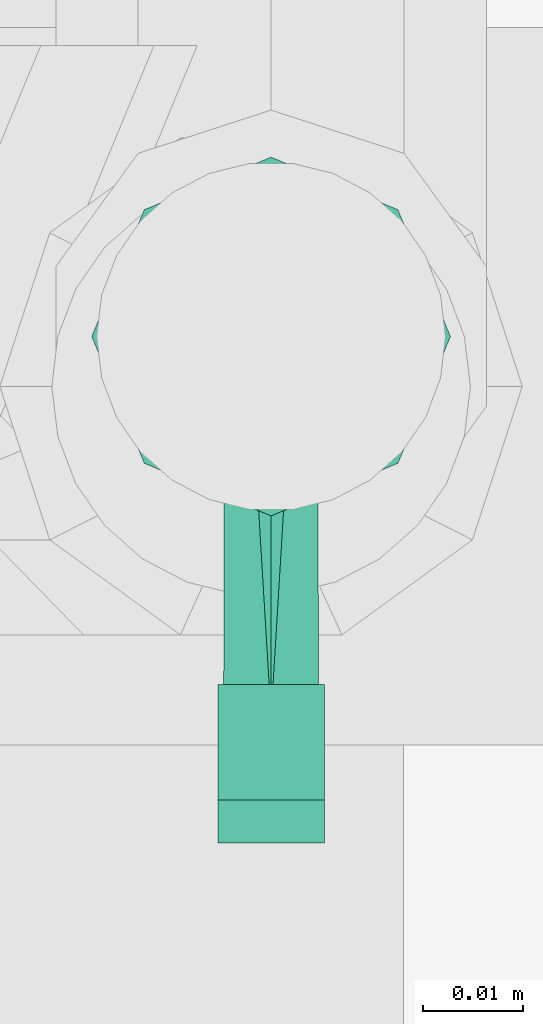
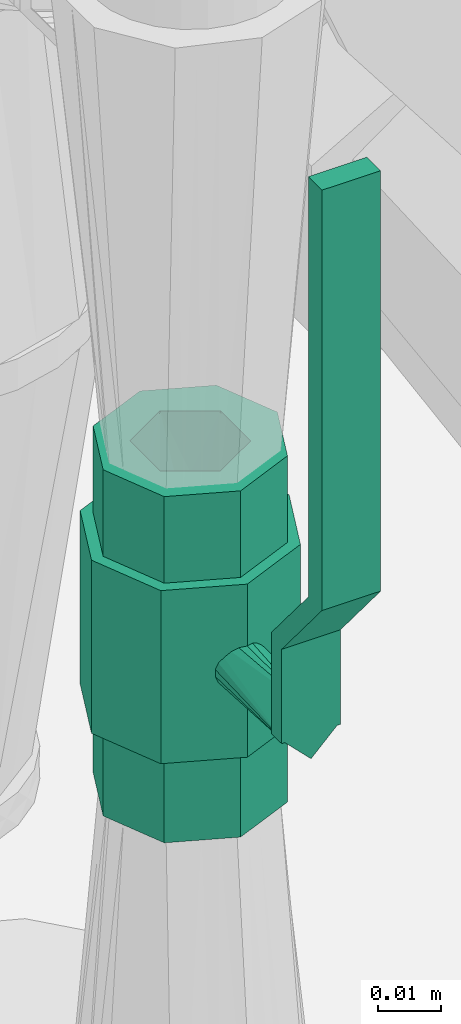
# One storey, part 33 of 43: 1 flow controller.
"""IFC2X3 building model written with IfcOpenShell, lengths in millimetres."""

from ifc_helpers import new_model, entity, si_unit, converted_unit, derived_unit, direction, frame, origin, place, context, subcontext, project, spatial, faceted_brep, source, transform, mapped, material, material_list, type_object, type_shapes, element, save


model = new_model("IFC2X3")

# Units and contexts
model_context = context("Model", 3, precision=0.01, world=origin(), true_north=direction((6.123031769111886e-17, 1.0)))
body_context = subcontext(model_context, "Body", "Model", "MODEL_VIEW")
ifc_project = project(units=[si_unit("LENGTHUNIT", "METRE", prefix="MILLI"), si_unit("AREAUNIT", "SQUARE_METRE"), si_unit("VOLUMEUNIT", "CUBIC_METRE"), converted_unit("PLANEANGLEUNIT", "DEGREE", entity("IfcRatioMeasure", 0.017453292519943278), si_unit("PLANEANGLEUNIT", "RADIAN"), dimensions=[0, 0, 0, 0, 0, 0, 0]), si_unit("MASSUNIT", "GRAM", prefix="KILO"), derived_unit("MASSDENSITYUNIT", [(si_unit("MASSUNIT", "GRAM", prefix="KILO"), 1), (si_unit("LENGTHUNIT", "METRE"), -3)]), derived_unit("MOMENTOFINERTIAUNIT", [(si_unit("LENGTHUNIT", "METRE"), 4)]), si_unit("TIMEUNIT", "SECOND"), si_unit("FREQUENCYUNIT", "HERTZ"), si_unit("THERMODYNAMICTEMPERATUREUNIT", "DEGREE_CELSIUS"), derived_unit("THERMALTRANSMITTANCEUNIT", [(si_unit("MASSUNIT", "GRAM", prefix="KILO"), 1), (si_unit("THERMODYNAMICTEMPERATUREUNIT", "KELVIN"), -1), (si_unit("TIMEUNIT", "SECOND"), -3)]), derived_unit("VOLUMETRICFLOWRATEUNIT", [(si_unit("LENGTHUNIT", "METRE"), 3), (si_unit("TIMEUNIT", "SECOND"), -1)]), derived_unit("MASSFLOWRATEUNIT", [(si_unit("MASSUNIT", "GRAM", prefix="KILO"), 1), (si_unit("TIMEUNIT", "SECOND"), -1)]), derived_unit("ROTATIONALFREQUENCYUNIT", [(si_unit("TIMEUNIT", "SECOND"), -1)]), si_unit("ELECTRICCURRENTUNIT", "AMPERE"), si_unit("ELECTRICVOLTAGEUNIT", "VOLT"), si_unit("POWERUNIT", "WATT"), si_unit("FORCEUNIT", "NEWTON", prefix="KILO"), si_unit("ILLUMINANCEUNIT", "LUX"), si_unit("LUMINOUSFLUXUNIT", "LUMEN"), si_unit("LUMINOUSINTENSITYUNIT", "CANDELA"), derived_unit("USERDEFINED", [(si_unit("MASSUNIT", "GRAM", prefix="KILO"), -1), (si_unit("LENGTHUNIT", "METRE"), -2), (si_unit("TIMEUNIT", "SECOND"), 3), (si_unit("LUMINOUSFLUXUNIT", "LUMEN"), 1)]), derived_unit("SOUNDPOWERUNIT", [(si_unit("MASSUNIT", "GRAM", prefix="KILO"), 1), (si_unit("LENGTHUNIT", "METRE"), 2), (si_unit("TIMEUNIT", "SECOND"), -3)]), derived_unit("SOUNDPRESSUREUNIT", [(si_unit("MASSUNIT", "GRAM", prefix="KILO"), 1), (si_unit("LENGTHUNIT", "METRE"), -1), (si_unit("TIMEUNIT", "SECOND"), -2)]), derived_unit("LINEARVELOCITYUNIT", [(si_unit("LENGTHUNIT", "METRE"), 1), (si_unit("TIMEUNIT", "SECOND"), -1)]), si_unit("PRESSUREUNIT", "PASCAL"), derived_unit("USERDEFINED", [(si_unit("LENGTHUNIT", "METRE"), -2), (si_unit("MASSUNIT", "GRAM", prefix="KILO"), 1), (si_unit("TIMEUNIT", "SECOND"), -2)]), derived_unit("LINEARFORCEUNIT", [(si_unit("MASSUNIT", "GRAM", prefix="KILO"), 1), (si_unit("LENGTHUNIT", "METRE"), 1), (si_unit("TIMEUNIT", "SECOND"), -2), (si_unit("LENGTHUNIT", "METRE"), -1)]), derived_unit("PLANARFORCEUNIT", [(si_unit("MASSUNIT", "GRAM", prefix="KILO"), 1), (si_unit("LENGTHUNIT", "METRE"), 1), (si_unit("TIMEUNIT", "SECOND"), -2), (si_unit("LENGTHUNIT", "METRE"), -2)])], contexts=[model_context])

# Site, building, storey
site_placement = place(None, origin())
site = spatial("IfcSite", under=ifc_project, at=site_placement, Name="Default", CompositionType="ELEMENT")
building_placement = place(site_placement, origin())
building = spatial("IfcBuilding", under=site, at=building_placement, CompositionType="ELEMENT")
storey_placement = place(building_placement, frame((0.0, 0.0, 270.0)))
storey = spatial("IfcBuildingStorey", under=building, at=storey_placement, Name="Niveau 0", CompositionType="ELEMENT", Elevation=270.0)

# Flow controller
ifc_material_1 = material(Name="Metal-WATTS-Carbon Steel-ASTM A216 gr.WCB")
ifc_material_2 = material(Name="Metal-WATTS-Carbon Steel-AISI 304 with Vinyl Insulator")
ifc_material_list_1 = material_list([ifc_material_1, ifc_material_1, ifc_material_2])
ifc_material_list_2 = material_list([ifc_material_1, ifc_material_1, ifc_material_2])
valve_type = type_object("IfcValveType", Name="Ball_Valves-Full_Port-WATTS-C-FBV-1_Series:C-FBV-1_3/4\"", PredefinedType="NOTDEFINED", material=ifc_material_list_2)
shared_shape = source(origin(), body_context, "Body", "Brep", [
    faceted_brep([(0.0, -4.762500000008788, 38.09999999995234), (0.0, 0.0, 38.09999999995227), (-4.762499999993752, 0.0, 38.09999999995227), (4.762500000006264, 0.0, 38.09999999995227), (0.0, 4.762499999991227, 38.0999999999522), (4.470049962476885, -1.643185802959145, 10.990341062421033), (4.762500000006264, 0.0, 11.112500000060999), (3.643394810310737, -3.0670964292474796, 10.680850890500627), (2.391550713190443, -4.118481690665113, 10.321131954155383), (0.835531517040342, -4.688634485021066, 10.074937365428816), (-3.6446556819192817, -3.065598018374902, 10.68128105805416), (-4.4701844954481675, -1.6428197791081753, 10.990395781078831), (-4.762499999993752, 0.0, 11.112500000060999), (-0.8368450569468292, -4.688400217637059, 10.075046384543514), (-2.3919569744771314, -4.118245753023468, 10.32122609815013), (-4.4701844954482, 1.6428197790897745, 10.99039578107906), (-3.6446556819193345, 3.0655980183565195, 10.681281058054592), (-2.3919569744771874, 4.118245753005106, 10.32122609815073), (-0.8368450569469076, 4.688400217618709, 10.075046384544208), (3.6433948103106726, 3.0670964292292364, 10.680850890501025), (4.470049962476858, 1.6431858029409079, 10.990341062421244), (0.8355315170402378, 4.6886344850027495, 10.0749373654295), (2.3915507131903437, 4.118481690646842, 10.32113195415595)], [[[0, 1, 2]], [[1, 0, 3]], [[4, 1, 3]], [[1, 4, 2]], [[3, 5, 6]], [[5, 3, 7]], [[7, 0, 8]], [[9, 8, 0]], [[0, 7, 3]], [[10, 0, 2]], [[11, 2, 12]], [[13, 0, 14]], [[14, 0, 10]], [[2, 11, 10]], [[0, 13, 9]], [[2, 15, 12]], [[15, 2, 16]], [[16, 4, 17]], [[18, 17, 4]], [[4, 16, 2]], [[19, 4, 3]], [[20, 3, 6]], [[21, 4, 22]], [[22, 4, 19]], [[3, 20, 19]], [[4, 21, 18]], [[15, 20, 6]], [[12, 15, 6]], [[16, 20, 15]], [[16, 19, 20]], [[17, 22, 19]], [[17, 18, 22]], [[21, 22, 18]], [[16, 17, 19]], [[14, 7, 8]], [[9, 13, 8]], [[14, 8, 13]], [[14, 10, 7]], [[11, 6, 5]], [[10, 11, 5]], [[12, 6, 11]], [[7, 10, 5]]]),
    faceted_brep([(33.33749999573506, 0.0, -9.524999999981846), (20.637500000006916, 2.465251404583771, -9.200443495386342), (20.637500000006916, 0.0, -9.524999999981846), (-20.637499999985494, 2.4652514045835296, -9.200443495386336), (-33.33750000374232, 0.0, -9.524999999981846), (-20.63749999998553, 0.0, -9.524999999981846), (33.337499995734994, 8.2488919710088, -4.762499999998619), (20.637500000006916, 6.735192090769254, -6.735192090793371), (20.637500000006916, 4.762499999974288, -8.248891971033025), (20.637500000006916, 8.248891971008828, -4.762499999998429), (-33.33750000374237, 8.248891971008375, -4.762499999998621), (-20.63749999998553, 6.735192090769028, -6.735192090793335), (-20.637499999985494, 8.248891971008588, -4.762499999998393), (20.637500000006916, 9.52499999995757, 0.0), (20.637500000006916, 9.200443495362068, -2.4652514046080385), (-20.637499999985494, 9.200443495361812, -2.465251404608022), (33.337499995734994, 8.248891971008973, 4.762499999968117), (20.637500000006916, 9.200443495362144, 2.4652514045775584), (20.637500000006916, 6.73519209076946, 6.7351920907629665), (20.637500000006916, 8.248891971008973, 4.762499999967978), (-20.63749999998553, 6.735192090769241, 6.735192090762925), (-33.33750000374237, 8.24889197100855, 4.762499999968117), (-20.637499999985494, 8.248891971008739, 4.762499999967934), (-20.637499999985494, 9.200443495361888, 2.4652514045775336), (33.33749999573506, 0.0, 9.524999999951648), (20.637500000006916, 4.762499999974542, 8.248891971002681), (20.637500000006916, 0.0, 9.524999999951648), (20.637500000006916, 2.4652514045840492, 9.200443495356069), (-20.63749999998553, 0.0, 9.524999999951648), (-33.33750000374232, 0.0, 9.524999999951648), (-20.637499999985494, 2.4652514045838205, 9.20044349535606), (20.637500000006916, -2.465251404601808, 9.200443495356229), (-20.63749999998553, -2.4652514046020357, 9.200443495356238), (33.33749999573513, -8.248891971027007, 4.762499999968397), (20.637500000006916, -6.735192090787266, 6.735192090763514), (20.637500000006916, -4.762499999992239, 8.24889197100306), (20.637500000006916, -8.248891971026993, 4.762499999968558), (-33.33750000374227, -8.24889197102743, 4.762499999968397), (-20.637499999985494, -6.735192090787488, 6.7351920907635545), (-20.637499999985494, -8.248891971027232, 4.762499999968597), (20.637500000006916, -9.524999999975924, 0.0), (20.637500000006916, -9.200443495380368, 2.4652514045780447), (-20.637499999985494, -9.200443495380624, 2.465251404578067), (33.33749999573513, -8.248891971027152, -4.762499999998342), (20.637500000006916, -9.200443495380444, -2.465251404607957), (20.637500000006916, -6.735192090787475, -6.735192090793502), (20.637500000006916, -8.248891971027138, -4.762499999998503), (-20.637499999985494, -6.735192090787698, -6.735192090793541), (-33.33750000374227, -8.248891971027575, -4.762499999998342), (-20.637499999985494, -8.248891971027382, -4.762499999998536), (-20.637499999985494, -9.2004434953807, -2.4652514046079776), (20.637500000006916, -4.762499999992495, -8.24889197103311), (20.637500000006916, -2.465251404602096, -9.200443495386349), (-20.63749999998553, -2.465251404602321, -9.20044349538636), (-33.33750000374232, 0.0, -15.874999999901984), (-33.337500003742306, -2.6024809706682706, -14.797017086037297), (-33.337500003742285, -5.612660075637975, -13.550160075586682), (-33.33750000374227, -8.418990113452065, -12.387740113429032), (-33.33750000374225, -11.225320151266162, -11.225320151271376), (-33.337500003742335, 2.6024809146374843, -14.797017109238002), (-33.337500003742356, 5.204961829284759, -13.719034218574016), (-33.33750000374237, 8.215140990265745, -12.47217718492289), (-33.33750000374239, 11.22532015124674, -11.225320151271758), (-33.3375000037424, 12.387740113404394, -8.41899011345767), (-33.337500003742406, 13.55016007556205, -5.612660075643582), (-33.33750000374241, 14.712580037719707, -2.8063300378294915), (-33.33750000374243, 15.87499999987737, 0.0), (-33.33750000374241, 14.712580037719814, 2.8063300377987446), (-33.337500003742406, 13.550160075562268, 5.6126600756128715), (-33.3375000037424, 12.387740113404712, 8.418990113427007), (-33.33750000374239, 11.225320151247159, 11.225320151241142), (-33.33750000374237, 8.418990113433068, 12.387740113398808), (-33.337500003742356, 5.61266007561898, 13.550160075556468), (-33.33750000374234, 2.8063300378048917, 14.712580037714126), (-33.33750000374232, 0.0, 15.87499999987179), (-33.337500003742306, -2.6024809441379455, 14.797017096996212), (-33.33750000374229, -5.204961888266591, 13.719034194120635), (-33.33750000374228, -8.215141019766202, 12.47217717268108), (-33.33750000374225, -11.225320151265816, 11.225320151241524), (-33.33750000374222, -15.874999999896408, 0.0), (-33.33750000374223, -14.712580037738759, 2.806330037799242), (-33.337500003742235, -13.550160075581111, 5.612660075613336), (-33.33750000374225, -12.387740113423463, 8.418990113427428), (-33.33750000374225, -12.387740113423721, -8.418990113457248), (-33.337500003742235, -13.550160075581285, -5.612660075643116), (-33.33750000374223, -14.712580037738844, -2.8063300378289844), (-16.66875000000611, -8.41899011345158, 12.387740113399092), (-16.668750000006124, -5.612660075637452, 13.550160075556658), (-16.668750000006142, -2.8063300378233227, 14.712580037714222), (-16.66875000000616, 0.0, 15.87499999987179), (-16.668750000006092, -11.22532015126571, 11.225320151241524), (33.337499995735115, -8.418990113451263, 12.387740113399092), (33.337499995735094, -5.612660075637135, 13.550160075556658), (33.33749999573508, -2.8063300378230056, 14.712580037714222), (33.33749999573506, 0.0, 15.87499999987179), (16.668749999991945, 0.0, 15.87499999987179), (16.668749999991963, -2.602480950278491, 14.797017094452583), (16.66874999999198, -5.204961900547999, 13.719034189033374), (16.668749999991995, -8.215141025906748, 12.47217717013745), (16.66874999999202, -11.225320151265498, 11.225320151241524), (33.337499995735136, -11.225320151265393, 11.225320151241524), (-16.668750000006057, -15.874999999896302, 0.0), (-16.668750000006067, -14.712580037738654, 2.8063300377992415), (-16.668750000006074, -13.550160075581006, 5.612660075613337), (-16.66875000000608, -12.387740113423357, 8.418990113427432), (16.66874999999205, -15.87499999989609, 0.0), (33.337499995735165, -15.874999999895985, 0.0), (33.33749999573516, -14.712580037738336, 2.806330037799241), (33.33749999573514, -13.550160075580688, 5.612660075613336), (33.337499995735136, -12.38774011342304, 8.41899011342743), (16.668749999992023, -12.387740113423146, 8.418990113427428), (16.66874999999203, -13.550160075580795, 5.612660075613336), (16.66874999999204, -14.712580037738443, 2.806330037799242), (-16.66875000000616, 0.0, -15.874999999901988), (-16.668750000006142, -2.8063300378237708, -14.712580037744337), (-16.668750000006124, -5.6126600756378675, -13.550160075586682), (-16.66875000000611, -8.418990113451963, -12.38774011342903), (-16.668750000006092, -11.225320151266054, -11.225320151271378), (16.668749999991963, -2.6024809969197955, -14.797017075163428), (16.668749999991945, 0.0, -15.874999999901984), (33.33749999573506, 0.0, -15.874999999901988), (33.33749999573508, -2.806330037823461, -14.712580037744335), (33.337499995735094, -5.612660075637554, -13.550160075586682), (33.337499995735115, -8.418990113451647, -12.38774011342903), (33.337499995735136, -11.22532015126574, -11.225320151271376), (16.66874999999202, -11.225320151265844, -11.225320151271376), (16.668749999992, -8.418990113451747, -12.387740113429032), (16.66874999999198, -5.612660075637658, -13.550160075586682), (-16.66875000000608, -12.387740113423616, -8.418990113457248), (-16.668750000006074, -13.550160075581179, -5.612660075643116), (-16.668750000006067, -14.712580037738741, -2.8063300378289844), (16.66874999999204, -14.71258003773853, -2.8063300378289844), (16.66874999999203, -13.550160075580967, -5.612660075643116), (16.668749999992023, -12.387740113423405, -8.418990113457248), (33.337499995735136, -12.387740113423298, -8.418990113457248), (33.33749999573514, -13.550160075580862, -5.612660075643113), (33.33749999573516, -14.712580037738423, -2.8063300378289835), (-16.66875000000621, 8.41899011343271, -12.387740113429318), (-16.66875000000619, 5.612660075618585, -13.550160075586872), (-16.668750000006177, 2.8063300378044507, -14.712580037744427), (-16.668750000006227, 11.225320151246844, -11.225320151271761), (33.33749999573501, 8.418990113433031, -12.387740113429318), (33.33749999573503, 5.612660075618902, -13.550160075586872), (33.337499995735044, 2.8063300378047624, -14.712580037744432), (16.66874999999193, 2.602480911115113, -14.797017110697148), (16.668749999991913, 5.2049618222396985, -13.71903422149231), (16.6687499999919, 8.215140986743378, -12.472177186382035), (16.668749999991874, 11.225320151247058, -11.225320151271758), (33.33749999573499, 11.225320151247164, -11.225320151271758), (-16.668750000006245, 13.55016007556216, -5.612660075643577), (-16.668750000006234, 12.3877401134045, -8.418990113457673), (-16.668750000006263, 15.874999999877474, 0.0), (-16.668750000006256, 14.71258003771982, -2.8063300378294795), (16.668749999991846, 15.874999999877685, 0.0), (33.33749999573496, 15.874999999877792, 0.0), (33.337499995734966, 14.712580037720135, -2.806330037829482), (33.33749999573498, 13.550160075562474, -5.612660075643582), (33.33749999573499, 12.387740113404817, -8.41899011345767), (16.66874999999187, 12.387740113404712, -8.418990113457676), (16.668749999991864, 13.550160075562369, -5.612660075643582), (16.668749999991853, 14.712580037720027, -2.8063300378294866), (-16.66875000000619, 5.612660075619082, 13.55016007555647), (-16.66875000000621, 8.418990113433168, 12.387740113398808), (-16.668750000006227, 11.225320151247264, 11.225320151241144), (-16.668750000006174, 2.6024809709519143, 14.79701708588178), (33.33749999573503, 5.612660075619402, 13.550160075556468), (33.33749999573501, 8.418990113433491, 12.387740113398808), (33.33749999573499, 11.225320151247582, 11.225320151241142), (16.668749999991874, 11.225320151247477, 11.225320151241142), (16.668749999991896, 8.418990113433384, 12.387740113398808), (16.668749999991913, 5.612660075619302, 13.550160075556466), (16.66874999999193, 2.806330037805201, 14.712580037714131), (33.337499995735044, 2.602480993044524, 14.797017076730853), (-16.668750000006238, 12.387740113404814, 8.418990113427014), (-16.668750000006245, 13.550160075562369, 5.612660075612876), (-16.668750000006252, 14.712580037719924, 2.806330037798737), (16.668749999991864, 13.550160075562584, 5.6126600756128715), (16.66874999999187, 12.387740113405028, 8.418990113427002), (33.33749999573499, 12.387740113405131, 8.418990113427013), (33.33749999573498, 13.550160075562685, 5.612660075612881), (33.337499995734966, 14.712580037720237, 2.8063300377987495), (16.668749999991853, 14.712580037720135, 2.8063300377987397), (-20.637499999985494, -4.762499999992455, 8.248891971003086), (-20.637499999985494, -9.524999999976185, 0.0), (-20.637499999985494, -4.762499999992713, -8.248891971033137), (-20.63749999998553, 4.762499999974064, -8.248891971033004), (-20.637499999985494, 9.52499999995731, 0.0), (-20.63749999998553, 4.762499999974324, 8.248891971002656), (-20.63749999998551, 0.0, 11.112500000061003), (-20.63749999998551, 9.623707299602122, 5.55625000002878), (20.637500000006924, 9.623707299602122, 5.55625000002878), (20.637500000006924, 0.0, 11.112500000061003), (-20.63749999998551, 9.623707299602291, -5.556250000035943), (20.637500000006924, 9.623707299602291, -5.556250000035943), (-20.63749999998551, 0.0, -11.112500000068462), (20.637500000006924, 0.0, -11.112500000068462), (-20.63749999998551, -9.623707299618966, -5.556250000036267), (20.637500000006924, -9.623707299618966, -5.556250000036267), (-20.63749999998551, -9.623707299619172, 5.556250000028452), (20.637500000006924, -9.623707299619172, 5.556250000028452), (-16.66875000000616, 0.0, -17.99399133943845), (-16.668750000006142, -3.1405680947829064, -16.6931254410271), (-16.668750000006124, -6.361836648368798, -15.358832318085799), (-16.66875000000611, -9.542754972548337, -14.041252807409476), (-16.668750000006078, -12.723673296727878, -12.723673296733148), (-16.668750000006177, 3.1405681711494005, -16.693125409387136), (-16.66875000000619, 6.281136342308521, -15.392259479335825), (-16.66875000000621, 9.502404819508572, -14.057966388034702), (-16.66875000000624, 12.723673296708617, -12.723673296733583), (-16.668750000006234, 14.041252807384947, -9.542754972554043), (-16.668750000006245, 15.35883231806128, -6.361836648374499), (-16.668750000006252, 16.676411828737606, -3.1809183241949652), (-16.668750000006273, 17.993991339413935, 0.0), (-16.668750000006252, 16.676411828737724, 3.1809183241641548), (-16.668750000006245, 15.358832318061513, 6.36183664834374), (-16.668750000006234, 14.041252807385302, 9.542754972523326), (-16.66875000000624, 12.72367329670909, 12.723673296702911), (-16.66875000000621, 9.542754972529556, 14.041252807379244), (-16.66875000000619, 6.361836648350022, 15.35883231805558), (-16.668750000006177, 3.140568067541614, 16.69312545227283), (-16.66875000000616, 0.0, 17.99399133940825), (-16.668750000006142, -3.1405681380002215, 16.693125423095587), (-16.668750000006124, -6.281136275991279, 15.392259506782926), (-16.66875000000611, -9.502404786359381, 14.057966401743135), (-16.668750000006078, -12.723673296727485, 12.723673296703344), (-16.66875000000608, -14.041252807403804, 9.542754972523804), (-16.668750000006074, -15.358832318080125, 6.36183664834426), (-16.668750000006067, -16.676411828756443, 3.1809183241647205), (-16.668750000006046, -17.993991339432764, 0.0), (-16.66875000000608, -14.041252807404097, -9.54275497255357), (-16.668750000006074, -15.358832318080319, -6.361836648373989), (-16.668750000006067, -16.67641182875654, -3.180918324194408), (16.668749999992, -9.542754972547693, 14.041252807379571), (16.66874999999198, -6.361836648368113, 15.358832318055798), (16.668749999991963, -3.180918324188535, 16.676411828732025), (16.668749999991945, 0.0, 17.99399133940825), (16.668749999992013, -12.723673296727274, 12.723673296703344), (16.66874999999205, -17.99399133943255, 0.0), (16.66874999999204, -16.67641182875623, 3.1809183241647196), (16.66874999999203, -15.358832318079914, 6.36183664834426), (16.668749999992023, -14.041252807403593, 9.542754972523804), (16.66874999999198, -6.361836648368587, -15.358832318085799), (16.668749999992, -9.542754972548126, -14.041252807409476), (16.668749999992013, -12.723673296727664, -12.723673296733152), (16.668749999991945, 0.0, -17.99399133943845), (16.668749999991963, -3.1809183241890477, -16.676411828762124), (16.66874999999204, -16.676411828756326, -3.180918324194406), (16.668749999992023, -14.041252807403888, -9.542754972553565), (16.66874999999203, -15.358832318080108, -6.361836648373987), (16.668749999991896, 9.542754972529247, -14.041252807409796), (16.668749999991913, 6.361836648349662, -15.358832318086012), (16.66874999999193, 3.1809183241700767, -16.67641182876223), (16.668749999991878, 12.723673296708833, -12.723673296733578), (16.668749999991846, 17.993991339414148, 0.0), (16.668749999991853, 16.676411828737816, -3.180918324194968), (16.668749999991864, 15.35883231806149, -6.361836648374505), (16.66874999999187, 14.041252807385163, -9.542754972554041), (16.668749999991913, 6.361836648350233, 15.35883231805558), (16.668749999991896, 9.542754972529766, 14.041252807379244), (16.668749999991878, 12.723673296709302, 12.723673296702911), (16.66874999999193, 3.180918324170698, 16.676411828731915), (16.668749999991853, 16.676411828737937, 3.1809183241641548), (16.66874999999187, 14.041252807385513, 9.542754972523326), (16.668749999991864, 15.358832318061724, 6.36183664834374)], [[[0, 1, 2]], [[3, 4, 5]], [[6, 7, 8]], [[0, 8, 1]], [[0, 6, 8]], [[9, 7, 6]], [[10, 11, 12]], [[13, 14, 6]], [[9, 6, 14]], [[10, 12, 15]], [[16, 17, 13]], [[16, 18, 19]], [[20, 21, 22]], [[16, 19, 17]], [[22, 21, 23]], [[24, 25, 16]], [[18, 16, 25]], [[24, 26, 27]], [[28, 29, 30]], [[25, 24, 27]], [[6, 16, 13]], [[24, 31, 26]], [[32, 29, 28]], [[33, 34, 35]], [[24, 35, 31]], [[24, 33, 35]], [[36, 34, 33]], [[37, 38, 39]], [[40, 41, 33]], [[36, 33, 41]], [[37, 39, 42]], [[43, 44, 40]], [[43, 45, 46]], [[47, 48, 49]], [[43, 46, 44]], [[49, 48, 50]], [[0, 51, 43]], [[45, 43, 51]], [[0, 2, 52]], [[5, 4, 53]], [[51, 0, 52]], [[33, 43, 40]], [[4, 54, 55]], [[4, 55, 56]], [[4, 56, 57]], [[4, 57, 58]], [[4, 58, 48]], [[4, 59, 54]], [[4, 60, 59]], [[4, 61, 60]], [[4, 62, 61]], [[4, 10, 62]], [[10, 63, 62]], [[10, 64, 63]], [[10, 65, 64]], [[10, 66, 65]], [[66, 10, 21]], [[21, 67, 66]], [[21, 68, 67]], [[21, 69, 68]], [[21, 70, 69]], [[21, 29, 70]], [[29, 71, 70]], [[29, 72, 71]], [[29, 73, 72]], [[29, 74, 73]], [[29, 75, 74]], [[29, 76, 75]], [[29, 77, 76]], [[29, 78, 77]], [[29, 37, 78]], [[37, 48, 79]], [[37, 79, 80]], [[37, 80, 81]], [[37, 81, 82]], [[37, 82, 78]], [[48, 58, 83]], [[48, 83, 84]], [[48, 84, 85]], [[48, 85, 79]], [[86, 87, 88, 89, 74, 75, 76, 77, 78, 90]], [[91, 92, 93, 94, 95, 96, 97, 98, 99, 100]], [[79, 101, 102, 103, 104, 90, 78, 82, 81, 80]], [[105, 106, 107, 108, 109, 100, 99, 110, 111, 112]], [[55, 54, 113, 114, 115, 116, 117, 58, 57, 56]], [[118, 119, 120, 121, 122, 123, 124, 125, 126, 127]], [[101, 79, 85, 84, 83, 58, 117, 128, 129, 130]], [[106, 105, 131, 132, 133, 125, 124, 134, 135, 136]], [[137, 138, 139, 113, 54, 59, 60, 61, 62, 140]], [[141, 142, 143, 120, 119, 144, 145, 146, 147, 148]], [[149, 150, 140, 62, 63, 64, 65, 66, 151, 152]], [[153, 154, 155, 156, 157, 148, 147, 158, 159, 160]], [[161, 162, 163, 70, 71, 72, 73, 74, 89, 164]], [[165, 166, 167, 168, 169, 170, 171, 95, 94, 172]], [[151, 66, 67, 68, 69, 70, 163, 173, 174, 175]], [[176, 177, 168, 167, 178, 179, 180, 154, 153, 181]], [[0, 124, 123]], [[43, 124, 0]], [[0, 123, 122]], [[0, 122, 121]], [[0, 121, 120]], [[0, 120, 143]], [[0, 143, 142]], [[0, 142, 141]], [[0, 141, 148]], [[148, 6, 0]], [[43, 134, 124]], [[43, 135, 134]], [[43, 136, 135]], [[43, 106, 136]], [[106, 43, 33]], [[33, 107, 106]], [[33, 108, 107]], [[33, 109, 108]], [[33, 100, 109]], [[100, 33, 24]], [[24, 91, 100]], [[24, 92, 91]], [[24, 93, 92]], [[24, 94, 93]], [[24, 172, 94]], [[24, 165, 172]], [[24, 166, 165]], [[24, 167, 166]], [[167, 24, 16]], [[16, 6, 154]], [[16, 154, 180]], [[16, 180, 179]], [[16, 179, 178]], [[16, 178, 167]], [[6, 148, 157]], [[6, 157, 156]], [[6, 156, 155]], [[6, 155, 154]], [[37, 29, 182]], [[32, 182, 29]], [[38, 37, 182]], [[42, 183, 37]], [[48, 183, 50]], [[48, 37, 183]], [[4, 48, 184]], [[184, 53, 4]], [[48, 47, 184]], [[10, 4, 185]], [[3, 185, 4]], [[11, 10, 185]], [[15, 186, 10]], [[21, 186, 23]], [[21, 10, 186]], [[29, 21, 187]], [[187, 30, 29]], [[21, 20, 187]], [[188, 189, 190, 191]], [[189, 192, 193, 190]], [[192, 194, 195, 193]], [[194, 196, 197, 195]], [[196, 198, 199, 197]], [[198, 188, 191, 199]], [[3, 5, 194]], [[194, 185, 3]], [[53, 194, 5]], [[194, 53, 184]], [[184, 196, 194]], [[184, 47, 196]], [[49, 196, 47]], [[196, 49, 50]], [[50, 183, 196]], [[198, 196, 183]], [[198, 183, 42]], [[42, 39, 198]], [[38, 198, 39]], [[198, 38, 182]], [[188, 198, 182]], [[182, 32, 188]], [[28, 188, 32]], [[30, 188, 28]], [[188, 30, 187]], [[189, 188, 187]], [[187, 20, 189]], [[189, 20, 22]], [[23, 189, 22]], [[189, 23, 186]], [[192, 189, 186]], [[186, 15, 192]], [[192, 15, 12]], [[12, 11, 192]], [[185, 192, 11]], [[192, 185, 194]], [[195, 2, 1]], [[1, 8, 195]], [[195, 8, 193]], [[2, 195, 52]], [[51, 52, 195]], [[195, 197, 51]], [[197, 45, 51]], [[45, 197, 46]], [[44, 46, 197]], [[197, 40, 44]], [[40, 197, 199]], [[41, 40, 199]], [[199, 36, 41]], [[36, 199, 34]], [[35, 34, 199]], [[35, 199, 191]], [[191, 31, 35]], [[31, 191, 26]], [[26, 191, 27]], [[25, 27, 191]], [[25, 191, 190]], [[190, 18, 25]], [[19, 18, 190]], [[19, 190, 17]], [[13, 17, 190]], [[13, 190, 193]], [[7, 193, 8]], [[193, 7, 9]], [[9, 14, 193]], [[193, 14, 13]], [[113, 200, 201]], [[113, 201, 202]], [[113, 202, 203]], [[113, 203, 204]], [[204, 114, 113]], [[113, 205, 200]], [[113, 206, 205]], [[113, 207, 206]], [[113, 208, 207]], [[208, 113, 139]], [[208, 139, 138]], [[208, 138, 137]], [[208, 137, 140]], [[140, 209, 208]], [[140, 210, 209]], [[140, 211, 210]], [[140, 212, 211]], [[212, 140, 150]], [[212, 150, 149]], [[212, 149, 152]], [[212, 152, 151]], [[212, 151, 175]], [[212, 175, 174]], [[212, 174, 173]], [[212, 173, 163]], [[163, 213, 212]], [[163, 214, 213]], [[163, 215, 214]], [[163, 216, 215]], [[216, 163, 162]], [[216, 162, 161]], [[216, 161, 164]], [[216, 164, 89]], [[89, 217, 216]], [[89, 218, 217]], [[89, 219, 218]], [[89, 220, 219]], [[89, 221, 220]], [[89, 222, 221]], [[89, 223, 222]], [[89, 224, 223]], [[224, 89, 88]], [[224, 88, 87]], [[224, 87, 86]], [[224, 86, 90]], [[90, 225, 224]], [[90, 226, 225]], [[90, 227, 226]], [[90, 228, 227]], [[228, 90, 104]], [[228, 104, 103]], [[228, 103, 102]], [[228, 102, 101]], [[228, 101, 130]], [[228, 130, 129]], [[228, 129, 128]], [[228, 128, 117]], [[117, 204, 229]], [[204, 117, 116]], [[117, 229, 230]], [[117, 230, 231]], [[117, 231, 228]], [[204, 116, 115]], [[204, 115, 114]], [[232, 233, 234, 235, 220, 221, 222, 223, 224, 236]], [[226, 227, 228, 237, 238, 239, 240, 236, 224, 225]], [[241, 242, 243, 204, 203, 202, 201, 200, 244, 245]], [[246, 237, 228, 231, 230, 229, 204, 243, 247, 248]], [[249, 250, 251, 244, 200, 205, 206, 207, 208, 252]], [[211, 212, 253, 254, 255, 256, 252, 208, 209, 210]], [[257, 258, 259, 216, 217, 218, 219, 220, 235, 260]], [[261, 253, 212, 213, 214, 215, 216, 259, 262, 263]], [[119, 243, 242]], [[243, 119, 118]], [[119, 242, 241]], [[119, 241, 245]], [[119, 245, 244]], [[119, 244, 251]], [[119, 251, 250]], [[119, 250, 249]], [[119, 249, 252]], [[252, 144, 119]], [[243, 118, 127]], [[243, 127, 126]], [[243, 126, 125]], [[125, 247, 243]], [[125, 248, 247]], [[125, 246, 248]], [[125, 237, 246]], [[237, 125, 133]], [[237, 133, 132]], [[237, 132, 131]], [[237, 131, 105]], [[237, 105, 112]], [[237, 112, 111]], [[237, 111, 110]], [[237, 110, 99]], [[99, 238, 237]], [[99, 239, 238]], [[99, 240, 239]], [[99, 236, 240]], [[236, 99, 98]], [[236, 98, 97]], [[236, 97, 96]], [[236, 96, 95]], [[95, 232, 236]], [[95, 233, 232]], [[95, 234, 233]], [[95, 235, 234]], [[95, 260, 235]], [[95, 257, 260]], [[95, 258, 257]], [[95, 259, 258]], [[259, 95, 171]], [[259, 171, 170]], [[259, 170, 169]], [[259, 169, 168]], [[168, 262, 259]], [[168, 263, 262]], [[168, 261, 263]], [[168, 253, 261]], [[253, 168, 177]], [[253, 177, 176]], [[253, 176, 181]], [[253, 181, 153]], [[253, 153, 160]], [[253, 160, 159]], [[253, 159, 158]], [[253, 158, 147]], [[147, 252, 256]], [[252, 147, 146]], [[147, 256, 255]], [[147, 255, 254]], [[147, 254, 253]], [[252, 146, 145]], [[252, 145, 144]]]),
    faceted_brep([(33.33749999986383, -5.345523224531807, 50.8000000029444), (18.180396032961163, -5.3455232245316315, 38.10000000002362), (0.0, -5.3455232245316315, 38.100000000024), (0.0, -5.345523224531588, 34.93796264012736), (19.558827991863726, -5.345523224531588, 34.93796264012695), (33.33749999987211, -5.345523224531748, 46.482987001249), (114.30000000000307, -5.345523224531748, 46.482987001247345), (114.30000000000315, -5.345523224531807, 50.80000000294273), (33.33749999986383, 5.3455232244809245, 50.80000000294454), (114.30000000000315, 5.3455232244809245, 50.80000000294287), (114.30000000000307, 5.345523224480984, 46.48298700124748), (33.33749999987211, 5.345523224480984, 46.48298700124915), (19.55882799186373, 5.345523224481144, 34.937962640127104), (0.0, 5.345523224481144, 34.9379626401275), (0.0, 5.3455232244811, 38.10000000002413), (18.180396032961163, 5.3455232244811, 38.10000000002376)], [[[0, 1, 2, 3, 4, 5, 6, 7]], [[8, 9, 10, 11, 12, 13, 14, 15]], [[0, 7, 9, 8]], [[7, 6, 10, 9]], [[6, 5, 11, 10]], [[5, 4, 12, 11]], [[4, 3, 13, 12]], [[3, 2, 14, 13]], [[2, 1, 15, 14]], [[1, 0, 8, 15]]]),
])
type_shapes(valve_type, [shared_shape])
flow_controller_placement = place(storey_placement, frame((-1962.4830858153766, -9889.089418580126, 2110.1642273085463), z_axis=(0.0, -1.0, 0.0), x_axis=(0.0, 0.0, 1.0)))
element("IfcFlowController", 1, at=flow_controller_placement, inside=storey, type_object=valve_type, material=ifc_material_list_1, Name="Ball_Valves-Full_Port-WATTS-C-FBV-1_Series:C-FBV-1_3/4\"", ObjectType="Ball_Valves-Full_Port-WATTS-C-FBV-1_Series:C-FBV-1_3/4\"", context=body_context, shape_type="MappedRepresentation", body=[
    mapped(shared_shape, transform((0.0, 0.0, 0.0), scale=1.0)),
])

save(model, "model.ifc")
